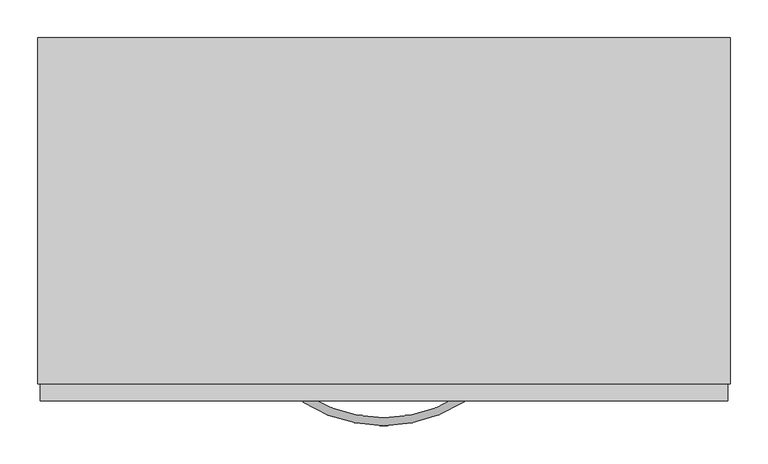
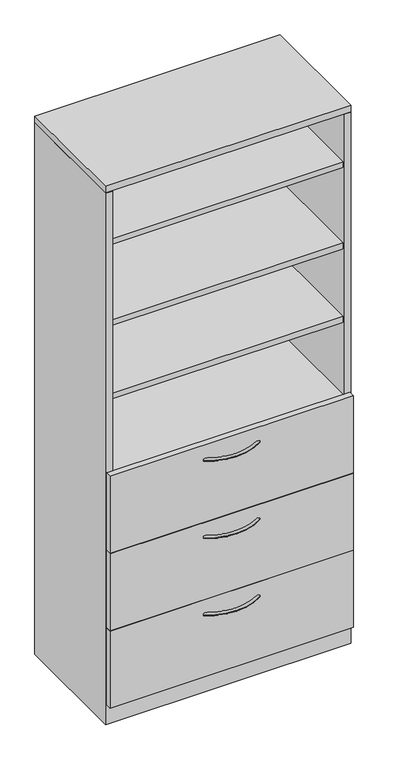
"""IFC4 building model written with IfcOpenShell, lengths in millimetres: furniture geometry, Steelcase - Universal Storage - Cabinet - Combination - Proud Steel : 83 1/2H - Open Cabinet/3 Drawers - 18 7/8D x 36W."""

import ifcopenshell
import ifcopenshell.guid

model = None  # the IFC model being written
_history = None  # IfcOwnerHistory: only IFC2X3 demands one
_inside = {}  # id of a spatial element -> (the spatial element, [elements in it])
_under = {}  # id of a project, library or spatial element -> (it, [spatial elements below it])
_declared = {}  # id of a project -> (the project, [libraries it declares])
_typed = {}  # id of a type object -> (the type object, [elements of that type])
_made_of = {}  # id of a material, layer set ... -> (it, [elements and type objects made of it])


def new_model(schema):
    """Start an empty IFC model of exactly this schema.

    Asked for "IFC4X3", IfcOpenShell would pick the latest addendum, in which some entities
    have other attributes; the version numbers below select the first issue.
    IFC2X3 requires an IfcOwnerHistory on every rooted entity: one is made here for all.
    """
    global model, _history
    if schema == "IFC4X3":
        model = ifcopenshell.file(schema_version=(4, 3, 0, 0))
    else:
        model = ifcopenshell.file(schema=schema)
    _inside.clear()
    _under.clear()
    _declared.clear()
    _typed.clear()
    _made_of.clear()
    _history = None
    if model.schema == "IFC2X3":
        org = make("IfcOrganization", Name="unknown")
        user = make(
            "IfcPersonAndOrganization",
            ThePerson=make("IfcPerson", FamilyName="unknown"),
            TheOrganization=org,
        )
        app = make(
            "IfcApplication",
            ApplicationDeveloper=org,
            Version="unknown",
            ApplicationFullName="unknown",
            ApplicationIdentifier="unknown",
        )
        _history = make(
            "IfcOwnerHistory",
            OwningUser=user,
            OwningApplication=app,
            ChangeAction="ADDED",
            CreationDate=0,
        )
    return model


def make(cls, **values):
    """One entity of the class cls with the attributes given. An attribute that is None is left unset."""
    return model.create_entity(
        cls, **{name: value for name, value in values.items() if value is not None}
    )


def rooted(cls, **values):
    """An entity with a GlobalId (a new one), such as an element, a storey or a relation."""
    return make(cls, GlobalId=ifcopenshell.guid.new(), OwnerHistory=_history, **values)


def si_unit(unit_type, name, prefix=None):
    """IfcSIUnit, for example si_unit("LENGTHUNIT", "METRE", prefix="MILLI")."""
    return make("IfcSIUnit", UnitType=unit_type, Prefix=prefix, Name=name)


def assignment(units):
    """IfcUnitAssignment: the units of a project."""
    return None if units is None else make("IfcUnitAssignment", Units=units)


def point(xyz):
    """IfcCartesianPoint."""
    return None if xyz is None else make("IfcCartesianPoint", Coordinates=xyz)


def direction(xyz):
    """IfcDirection."""
    return None if xyz is None else make("IfcDirection", DirectionRatios=xyz)


def frame(location, z_axis=None, x_axis=None):
    """IfcAxis2Placement3D, a coordinate frame: its origin and axes. An axis left out is left unset."""
    return make(
        "IfcAxis2Placement3D",
        Location=point(location),
        Axis=direction(z_axis),
        RefDirection=direction(x_axis),
    )


def origin():
    """The frame at (0, 0, 0) with its axes left unset."""
    return frame((0.0, 0.0, 0.0))


def place(relative_to, where):
    """IfcLocalPlacement: puts the frame where relative to a parent placement (None: the world)."""
    return make(
        "IfcLocalPlacement", PlacementRelTo=relative_to, RelativePlacement=where
    )


def context(
    kind, dimensions, precision=None, world=None, true_north=None, identifier=None
):
    """IfcGeometricRepresentationContext, for example the 3D "Model" context."""
    return make(
        "IfcGeometricRepresentationContext",
        ContextIdentifier=identifier,
        ContextType=kind,
        CoordinateSpaceDimension=dimensions,
        Precision=precision,
        WorldCoordinateSystem=world,
        TrueNorth=true_north,
    )


def project(units=None, contexts=None):
    """IfcProject with its units and contexts."""
    return rooted(
        "IfcProject",
        Name="project",
        RepresentationContexts=contexts,
        UnitsInContext=assignment(units),
    )


def spatial(cls, under=None, at=None, **own):
    """A site, building, storey or space (cls), placed at a placement, below another one or the project."""
    s = rooted(cls, ObjectPlacement=at, **own)
    if under is not None:
        _under.setdefault(under.id(), (under, []))[1].append(s)
    return s


def polyline(points):
    """IfcPolyline through the points."""
    return make("IfcPolyline", Points=[point(p) for p in points])


def circle_curve(where, radius):
    """IfcCircle in the frame where."""
    return make("IfcCircle", Position=where, Radius=radius)


def ellipse_curve(where, semi_axis1, semi_axis2):
    """IfcEllipse in the frame where."""
    return make(
        "IfcEllipse", Position=where, SemiAxis1=semi_axis1, SemiAxis2=semi_axis2
    )


def trimmed(basis, trim1, trim2, sense, master):
    """IfcTrimmedCurve: the piece of a basis curve between two trims."""
    return make(
        "IfcTrimmedCurve",
        BasisCurve=basis,
        Trim1=trim1,
        Trim2=trim2,
        SenseAgreement=sense,
        MasterRepresentation=master,
    )


def outline(outer, holes=None, kind="AREA"):
    """IfcArbitraryClosedProfileDef: a profile drawn as a closed curve; with holes, ...WithVoids."""
    if holes is None:
        return make("IfcArbitraryClosedProfileDef", ProfileType=kind, OuterCurve=outer)
    return make(
        "IfcArbitraryProfileDefWithVoids",
        ProfileType=kind,
        OuterCurve=outer,
        InnerCurves=holes,
    )


def extrude(swept, where, along, depth):
    """IfcExtrudedAreaSolid: the profile swept, set in the frame where, extruded along a direction by depth."""
    return make(
        "IfcExtrudedAreaSolid",
        SweptArea=swept,
        Position=where,
        ExtrudedDirection=direction(along),
        Depth=depth,
    )


def faces_of(points, faces, orient=None, outer=None):
    """IfcFace entities. A face is a list of loops; a loop is a list of indices into points, from 0.

    orient and outer hold one flag for each loop. By default every Orientation is true, the
    first loop of a face is its IfcFaceOuterBound and the others are IfcFaceBound.
    """
    made = []
    for i, loops in enumerate(faces):
        bounds = []
        for j, loop in enumerate(loops):
            is_outer = j == 0 if outer is None else outer[i][j]
            bounds.append(
                make(
                    "IfcFaceOuterBound" if is_outer else "IfcFaceBound",
                    Bound=make("IfcPolyLoop", Polygon=[points[k] for k in loop]),
                    Orientation=True if orient is None else orient[i][j],
                )
            )
        made.append(make("IfcFace", Bounds=bounds))
    return made


def faceted_brep(points, faces, orient=None, outer=None, voids=None):
    """IfcFacetedBrep: a solid bounded by flat faces; with voids (closed shells), ...WithVoids."""
    shared = [point(p) for p in points]
    hull = make("IfcClosedShell", CfsFaces=faces_of(shared, faces, orient, outer))
    if voids is None:
        return make("IfcFacetedBrep", Outer=hull)
    return make(
        "IfcFacetedBrepWithVoids",
        Outer=hull,
        Voids=[
            make(cls, CfsFaces=faces_of(shared, fs, o, b)) for cls, fs, o, b in voids
        ],
    )


def shape(context_of_items, identifier, shape_type, items):
    """IfcShapeRepresentation: the items that make up one representation, for example the "Body"."""
    return make(
        "IfcShapeRepresentation",
        ContextOfItems=context_of_items,
        RepresentationIdentifier=identifier,
        RepresentationType=shape_type,
        Items=items,
    )


def source(mapping_origin, context_of_items, identifier, shape_type, items):
    """IfcRepresentationMap: a shape defined once, which mapped items show again and again."""
    return make(
        "IfcRepresentationMap",
        MappingOrigin=mapping_origin,
        MappedRepresentation=shape(context_of_items, identifier, shape_type, items),
    )


def transform(
    local_origin,
    x_axis=None,
    y_axis=None,
    z_axis=None,
    scale=None,
    scale2=None,
    scale3=None,
    uniform=True,
):
    """IfcCartesianTransformationOperator3D, or its non-uniform kind. x_axis, y_axis, z_axis: its Axis1, 2, 3."""
    if uniform:
        return make(
            "IfcCartesianTransformationOperator3D",
            Axis1=direction(x_axis),
            Axis2=direction(y_axis),
            LocalOrigin=point(local_origin),
            Scale=scale,
            Axis3=direction(z_axis),
        )
    return make(
        "IfcCartesianTransformationOperator3DnonUniform",
        Axis1=direction(x_axis),
        Axis2=direction(y_axis),
        LocalOrigin=point(local_origin),
        Scale=scale,
        Axis3=direction(z_axis),
        Scale2=scale2,
        Scale3=scale3,
    )


def mapped(mapping_source, mapping_target):
    """IfcMappedItem: shows the shape of a source again, moved by a transform."""
    return make(
        "IfcMappedItem", MappingSource=mapping_source, MappingTarget=mapping_target
    )


def made_of(thing, what):
    """Note that an element or type object is made of a material, layer set ...; save() writes the relation."""
    if what is not None:
        _made_of.setdefault(what.id(), (what, []))[1].append(thing)
    return thing


def element(
    cls,
    number,
    at=None,
    inside=None,
    cuts=None,
    type_object=None,
    material=None,
    context=None,
    identifier="Body",
    shape_type=None,
    held_by="IfcProductDefinitionShape",
    body=None,
    shapes=None,
    **own,
):
    """One element of the class cls, such as IfcWall. Its Tag is "e" and its number.

    at: its placement. inside: the storey or other place that contains it. cuts: it is an
    opening in that element (IfcRelVoidsElement). A single representation is given by context,
    identifier, shape_type and body (its items); several are given by shapes. held_by: the class
    of the entity that holds the representations. save() writes the other relations.
    """
    e = rooted(cls, Tag="e%d" % number, ObjectPlacement=at, **own)
    if body is not None:
        shapes = [shape(context, identifier, shape_type, body)]
    if shapes is not None:
        e.Representation = make(held_by, Representations=shapes)
    if inside is not None:
        _inside.setdefault(inside.id(), (inside, []))[1].append(e)
    if cuts is not None:
        rooted(
            "IfcRelVoidsElement", RelatingBuildingElement=cuts, RelatedOpeningElement=e
        )
    if type_object is not None:
        _typed.setdefault(type_object.id(), (type_object, []))[1].append(e)
    return made_of(e, material)


def aggregate(whole, parts):
    """IfcRelAggregates: a whole, such as a stair, and the parts it consists of."""
    return rooted("IfcRelAggregates", RelatingObject=whole, RelatedObjects=parts)


def save(model, path):
    """Write the relations noted so far, then the file.

    IfcRelAggregates (storeys below a building ...), IfcRelContainedInSpatialStructure (elements
    in a storey), IfcRelDefinesByType, IfcRelAssociatesMaterial and IfcRelDeclares: one each for
    every whole, place, type object, material and project.
    """
    for whole, parts in _under.values():
        aggregate(whole, parts)
    for where, things in _inside.values():
        rooted(
            "IfcRelContainedInSpatialStructure",
            RelatedElements=things,
            RelatingStructure=where,
        )
    for kind, things in _typed.values():
        rooted("IfcRelDefinesByType", RelatedObjects=things, RelatingType=kind)
    for what, things in _made_of.values():
        rooted("IfcRelAssociatesMaterial", RelatedObjects=things, RelatingMaterial=what)
    for by, libraries in _declared.values():
        rooted("IfcRelDeclares", RelatingContext=by, RelatedDefinitions=libraries)
    model.write(path)


def plane_surface(at):
    """IfcPlane: the flat surface through the origin of the frame at, square to its z axis."""
    return make("IfcPlane", Position=at)


def revolved_surface(curve, axis_point, axis_direction):
    """IfcSurfaceOfRevolution: the curve turned about the line through axis_point along axis_direction."""
    return make(
        "IfcSurfaceOfRevolution",
        SweptCurve=make("IfcArbitraryOpenProfileDef", ProfileType="CURVE", Curve=curve),
        AxisPosition=make("IfcAxis1Placement", Location=point(axis_point), Axis=direction(axis_direction)),
    )


def advanced_brep(points, edges, surfaces, faces):
    """IfcAdvancedBrep: a solid bounded by faces that lie on surfaces and meet in shared edges.

    An edge is (start, end): straight between two places in points (the first is 0);
    or (start, end, curve); or (start, end, curve, False) where it runs against its curve.
    A face is (place in surfaces, loops), or (place, loops, False) where it looks against
    its surface's normal. A loop lists edges by number (the first is 1), with a minus sign
    where the edge is run from its end to its start. The first loop is the outer one.
    """
    corners = [point(p) for p in points]
    vertices = [make("IfcVertexPoint", VertexGeometry=c) for c in corners]
    made = []
    for start, end, *more in edges:
        made.append(
            make(
                "IfcEdgeCurve",
                EdgeStart=vertices[start],
                EdgeEnd=vertices[end],
                EdgeGeometry=more[0] if more else make("IfcPolyline", Points=[corners[start], corners[end]]),
                SameSense=more[1] if len(more) > 1 else True,
            )
        )
    hull = []
    for where, loops, *sense in faces:
        bounds = []
        for j, loop in enumerate(loops):
            ring = [make("IfcOrientedEdge", EdgeElement=made[abs(k) - 1], Orientation=k > 0) for k in loop]
            bounds.append(
                make(
                    "IfcFaceOuterBound" if j == 0 else "IfcFaceBound",
                    Bound=make("IfcEdgeLoop", EdgeList=ring),
                    Orientation=True,
                )
            )
        hull.append(make("IfcAdvancedFace", Bounds=bounds, FaceSurface=surfaces[where], SameSense=sense[0] if sense else True))
    return make("IfcAdvancedBrep", Outer=make("IfcClosedShell", CfsFaces=hull))


def furniture_0e4de3d0(model_context):
    return source(origin(), model_context, "Body", "SolidModel", [
        extrude(outline(polyline([(889.0000242, -25.4000008), (889.0000242, -454.0250121), (25.4000008, -454.0250121), (25.4000008, -25.4000008), (889.0000242, -25.4000008)])), frame((0.0, 0.0, 965.2000242), z_axis=(0.0, 0.0, 1.0), x_axis=(1.0, 0.0, 0.0)), (0.0, 0.0, 1.0), 22.2249516),
        extrude(outline(polyline([(889.0000242, -25.4000008), (889.0000242, -454.0250121), (25.4000008, -454.0250121), (25.4000008, -25.4000008), (889.0000242, -25.4000008)])), frame((0.0, 0.0, 1273.1750484), z_axis=(0.0, 0.0, 1.0), x_axis=(1.0, 0.0, 0.0)), (0.0, 0.0, 1.0), 22.2249516),
        extrude(outline(polyline([(889.0000242, -25.4000008), (889.0000242, -454.0250121), (25.4000008, -454.0250121), (25.4000008, -25.4000008), (889.0000242, -25.4000008)])), frame((0.0, 0.0, 1562.7350484), z_axis=(0.0, 0.0, 1.0), x_axis=(1.0, 0.0, 0.0)), (0.0, 0.0, 1.0), 22.2249516),
        extrude(outline(polyline([(889.0000242, -25.4000008), (889.0000242, -454.0250121), (25.4000008, -454.0250121), (25.4000008, -25.4000008), (889.0000242, -25.4000008)])), frame((0.0, 0.0, 1882.7750484), z_axis=(0.0, 0.0, 1.0), x_axis=(1.0, 0.0, 0.0)), (0.0, 0.0, 1.0), 22.2249516),
        advanced_brep(
        [(350.6245932, -481.5705994, 323.56425), (356.0977519, -473.0108019, 323.56425), (562.9315136, -481.1337636, 323.56425), (557.4231767, -472.5965612, 323.56425)],
        [
            (0, 1, circle_curve(frame((353.3611726, -477.2907007, 323.56425), z_axis=(-0.8424997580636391, 0.5386967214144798, 0.0), x_axis=(0.5386967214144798, 0.8424997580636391, 0.0)), 5.08)),
            (1, 0, circle_curve(frame((353.3611726, -477.2907007, 323.56425), z_axis=(-0.8424997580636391, 0.5386967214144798, 0.0), x_axis=(0.5386967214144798, 0.8424997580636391, 0.0)), 5.08)),
            (2, 3, circle_curve(frame((560.1773452, -476.8651624, 323.56425), z_axis=(0.8402758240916, 0.5421591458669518, 0.0), x_axis=(-0.5421591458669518, 0.8402758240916, 0.0)), 5.08)),
            (3, 2, circle_curve(frame((560.1773452, -476.8651624, 323.56425), z_axis=(0.8402758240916, 0.5421591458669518, 0.0), x_axis=(-0.5421591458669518, 0.8402758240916, 0.0)), 5.08)),
            (3, 1, circle_curve(frame((456.4380004, -316.0827352, 323.56425), z_axis=(0.0, 0.0, -1.0), x_axis=(-0.5386967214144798, -0.8424997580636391, 0.0)), 186.2648211)),
            (0, 2, circle_curve(frame((456.4380004, -316.0827352, 323.56425), z_axis=(0.0, 0.0, 1.0), x_axis=(-0.5386967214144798, -0.8424997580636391, 0.0)), 196.4248211)),
        ],
        [
            plane_surface(frame((353.7794521, -476.6365286, 324.358), z_axis=(-0.8424997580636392, 0.5386967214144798, 0.0), x_axis=(0.0, 0.0, 1.0))),
            plane_surface(frame((559.7563772, -476.2127171, 324.358), z_axis=(0.8402758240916, 0.5421591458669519, 0.0), x_axis=(0.0, 0.0, 1.0))),
            revolved_surface(trimmed(ellipse_curve(frame((353.3611726, -477.2907007, 323.56425), z_axis=(-0.8424997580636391, 0.5386967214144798, 0.0), x_axis=(0.5386967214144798, 0.8424997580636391, 0.0)), 5.08, 5.08), [point((350.6245932, -481.5705994, 323.56425))], [point((356.0977519, -473.0108019, 323.56425))], True, "CARTESIAN"), (456.4380004, -316.0827352, 324.358), (0.0, 0.0, 1.0)),
            revolved_surface(trimmed(ellipse_curve(frame((353.3611726, -477.2907007, 323.56425), z_axis=(-0.8424997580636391, 0.5386967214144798, 0.0), x_axis=(0.5386967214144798, 0.8424997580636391, 0.0)), 5.08, 5.08), [point((356.0977519, -473.0108019, 323.56425))], [point((350.6245932, -481.5705994, 323.56425))], True, "CARTESIAN"), (456.4380004, -316.0827352, 324.358), (0.0, 0.0, 1.0)),
        ],
        [
            (0, [[1, 2]]),
            (1, [[3, 4]]),
            (2, [[5, -1, 6, -4]]),
            (3, [[-6, -2, -5, -3]]),
        ],
    ),
        advanced_brep(
        [(350.6245932, -481.5705994, 627.85625), (356.0977519, -473.0108019, 627.85625), (562.9315136, -481.1337636, 627.85625), (557.4231767, -472.5965612, 627.85625)],
        [
            (0, 1, circle_curve(frame((353.3611726, -477.2907007, 627.85625), z_axis=(-0.8424997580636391, 0.5386967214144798, 0.0), x_axis=(0.5386967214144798, 0.8424997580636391, 0.0)), 5.08)),
            (1, 0, circle_curve(frame((353.3611726, -477.2907007, 627.85625), z_axis=(-0.8424997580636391, 0.5386967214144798, 0.0), x_axis=(0.5386967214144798, 0.8424997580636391, 0.0)), 5.08)),
            (2, 3, circle_curve(frame((560.1773452, -476.8651624, 627.85625), z_axis=(0.8402758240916, 0.5421591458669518, 0.0), x_axis=(-0.5421591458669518, 0.8402758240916, 0.0)), 5.08)),
            (3, 2, circle_curve(frame((560.1773452, -476.8651624, 627.85625), z_axis=(0.8402758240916, 0.5421591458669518, 0.0), x_axis=(-0.5421591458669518, 0.8402758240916, 0.0)), 5.08)),
            (3, 1, circle_curve(frame((456.4380004, -316.0827352, 627.85625), z_axis=(0.0, 0.0, -1.0), x_axis=(-0.5386967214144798, -0.8424997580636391, 0.0)), 186.2648211)),
            (0, 2, circle_curve(frame((456.4380004, -316.0827352, 627.85625), z_axis=(0.0, 0.0, 1.0), x_axis=(-0.5386967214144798, -0.8424997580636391, 0.0)), 196.4248211)),
        ],
        [
            plane_surface(frame((353.7794521, -476.6365286, 628.65), z_axis=(-0.8424997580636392, 0.5386967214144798, 0.0), x_axis=(0.0, 0.0, 1.0))),
            plane_surface(frame((559.7563772, -476.2127171, 628.65), z_axis=(0.8402758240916, 0.5421591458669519, 0.0), x_axis=(0.0, 0.0, 1.0))),
            revolved_surface(trimmed(ellipse_curve(frame((353.3611726, -477.2907007, 627.85625), z_axis=(-0.8424997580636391, 0.5386967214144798, 0.0), x_axis=(0.5386967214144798, 0.8424997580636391, 0.0)), 5.08, 5.08), [point((350.6245932, -481.5705994, 627.85625))], [point((356.0977519, -473.0108019, 627.85625))], True, "CARTESIAN"), (456.4380004, -316.0827352, 628.65), (0.0, 0.0, 1.0)),
            revolved_surface(trimmed(ellipse_curve(frame((353.3611726, -477.2907007, 627.85625), z_axis=(-0.8424997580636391, 0.5386967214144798, 0.0), x_axis=(0.5386967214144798, 0.8424997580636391, 0.0)), 5.08, 5.08), [point((356.0977519, -473.0108019, 627.85625))], [point((350.6245932, -481.5705994, 627.85625))], True, "CARTESIAN"), (456.4380004, -316.0827352, 628.65), (0.0, 0.0, 1.0)),
        ],
        [
            (0, [[1, 2]]),
            (1, [[3, 4]]),
            (2, [[5, -1, 6, -4]]),
            (3, [[-6, -2, -5, -3]]),
        ],
    ),
        extrude(outline(polyline([(911.2225413, -479.552), (3.1725353, -479.552), (3.1725353, -457.3261219), (911.2225413, -457.3261219), (911.2225413, -479.552)])), frame((0.0, 0.0, 687.3240349), z_axis=(0.0, 0.0, 1.0), x_axis=(1.0, 0.0, 0.0)), (0.0, 0.0, 1.0), 303.2759651),
        advanced_brep(
        [(350.6245932, -481.5705994, 932.65625), (356.0977519, -473.0108019, 932.65625), (562.9315136, -481.1337636, 932.65625), (557.4231767, -472.5965612, 932.65625)],
        [
            (0, 1, circle_curve(frame((353.3611726, -477.2907007, 932.65625), z_axis=(-0.8424997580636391, 0.5386967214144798, 0.0), x_axis=(0.5386967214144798, 0.8424997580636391, 0.0)), 5.08)),
            (1, 0, circle_curve(frame((353.3611726, -477.2907007, 932.65625), z_axis=(-0.8424997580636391, 0.5386967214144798, 0.0), x_axis=(0.5386967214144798, 0.8424997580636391, 0.0)), 5.08)),
            (2, 3, circle_curve(frame((560.1773452, -476.8651624, 932.65625), z_axis=(0.8402758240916, 0.5421591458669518, 0.0), x_axis=(-0.5421591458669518, 0.8402758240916, 0.0)), 5.08)),
            (3, 2, circle_curve(frame((560.1773452, -476.8651624, 932.65625), z_axis=(0.8402758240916, 0.5421591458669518, 0.0), x_axis=(-0.5421591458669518, 0.8402758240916, 0.0)), 5.08)),
            (3, 1, circle_curve(frame((456.4380004, -316.0827352, 932.65625), z_axis=(0.0, 0.0, -1.0), x_axis=(-0.5386967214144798, -0.8424997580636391, 0.0)), 186.2648211)),
            (0, 2, circle_curve(frame((456.4380004, -316.0827352, 932.65625), z_axis=(0.0, 0.0, 1.0), x_axis=(-0.5386967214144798, -0.8424997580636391, 0.0)), 196.4248211)),
        ],
        [
            plane_surface(frame((353.7794521, -476.6365286, 933.45), z_axis=(-0.8424997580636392, 0.5386967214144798, 0.0), x_axis=(0.0, 0.0, 1.0))),
            plane_surface(frame((559.7563772, -476.2127171, 933.45), z_axis=(0.8402758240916, 0.5421591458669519, 0.0), x_axis=(0.0, 0.0, 1.0))),
            revolved_surface(trimmed(ellipse_curve(frame((353.3611726, -477.2907007, 932.65625), z_axis=(-0.8424997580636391, 0.5386967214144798, 0.0), x_axis=(0.5386967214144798, 0.8424997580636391, 0.0)), 5.08, 5.08), [point((350.6245932, -481.5705994, 932.65625))], [point((356.0977519, -473.0108019, 932.65625))], True, "CARTESIAN"), (456.4380004, -316.0827352, 933.45), (0.0, 0.0, 1.0)),
            revolved_surface(trimmed(ellipse_curve(frame((353.3611726, -477.2907007, 932.65625), z_axis=(-0.8424997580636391, 0.5386967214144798, 0.0), x_axis=(0.5386967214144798, 0.8424997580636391, 0.0)), 5.08, 5.08), [point((356.0977519, -473.0108019, 932.65625))], [point((350.6245932, -481.5705994, 932.65625))], True, "CARTESIAN"), (456.4380004, -316.0827352, 933.45), (0.0, 0.0, 1.0)),
        ],
        [
            (0, [[1, 2]]),
            (1, [[3, 4]]),
            (2, [[5, -1, 6, -4]]),
            (3, [[-6, -2, -5, -3]]),
        ],
    ),
        faceted_brep([(25.4000008, -457.3261219, 76.2), (889.0000242, -457.3261219, 76.2), (889.0000242, -25.4000008, 76.2), (25.4000008, -25.4000008, 76.2), (914.4, 0.0, 0.0), (914.4, -457.3261219, 0.0), (0.0, -457.3261219, 0.0), (0.0, 0.0, 0.0), (0.0, 0.0, 2093.976), (914.4, 0.0, 2093.976), (0.0, -457.3261219, 2093.976), (914.4, -457.3261219, 2093.976), (889.0000242, -457.3261219, 2093.976), (25.4000008, -457.3261219, 2093.976), (889.0000242, -25.4000008, 2093.976), (25.4000008, -25.4000008, 2093.976)], [[[0, 1, 2, 3]], [[4, 5, 6, 7]], [[4, 7, 8, 9]], [[8, 7, 6, 10]], [[10, 6, 5, 11, 12, 1, 0, 13]], [[11, 5, 4, 9]], [[14, 12, 11, 9, 8, 10, 13, 15]], [[12, 14, 2, 1]], [[15, 13, 0, 3]], [[14, 15, 3, 2]]]),
        extrude(outline(polyline([(911.2225413, -479.552), (3.1725353, -479.552), (3.1725353, -457.3261219), (911.2225413, -457.3261219), (911.2225413, -479.552)])), frame((0.0, 0.0, 77.724), z_axis=(0.0, 0.0, 1.0), x_axis=(1.0, 0.0, 0.0)), (0.0, 0.0, 1.0), 303.276),
        extrude(outline(polyline([(911.2225413, -479.552), (3.1725353, -479.552), (3.1725353, -457.3261219), (911.2225413, -457.3261219), (911.2225413, -479.552)])), frame((0.0, 0.0, 382.524), z_axis=(0.0, 0.0, 1.0), x_axis=(1.0, 0.0, 0.0)), (0.0, 0.0, 1.0), 303.276),
        extrude(outline(polyline([(914.4, 0.0), (914.4, -457.3261219), (0.0, -457.3261219), (0.0, 0.0), (914.4, 0.0)])), frame((0.0, 0.0, 2095.4999516), z_axis=(0.0, 0.0, 1.0), x_axis=(1.0, 0.0, 0.0)), (0.0, 0.0, 1.0), 25.4000484),
    ])


if __name__ == "__main__":
    model = new_model("IFC4")
    model_context = context("Model", 3, world=origin())
    ifc_project = project(units=[si_unit("LENGTHUNIT", "METRE", prefix="MILLI")], contexts=[model_context])
    site = spatial("IfcSite", under=ifc_project)
    building = spatial("IfcBuilding", under=site)
    placement = place(None, origin())
    furniture_shape = furniture_0e4de3d0(model_context)
    element("IfcFurniture", 1, ObjectType="Steelcase - Universal Storage - Cabinet - Combination - Proud Steel : 83 1/2H - Open Cabinet/3 Drawers - 18 7/8D x 36W", at=placement, inside=building, context=model_context, shape_type="MappedRepresentation", body=[
        mapped(furniture_shape, transform((0.0, 0.0, 0.0), x_axis=(1.0, 0.0, 0.0), y_axis=(0.0, 1.0, 0.0), z_axis=(0.0, 0.0, 1.0))),
    ])
    save(model, "model.ifc")
